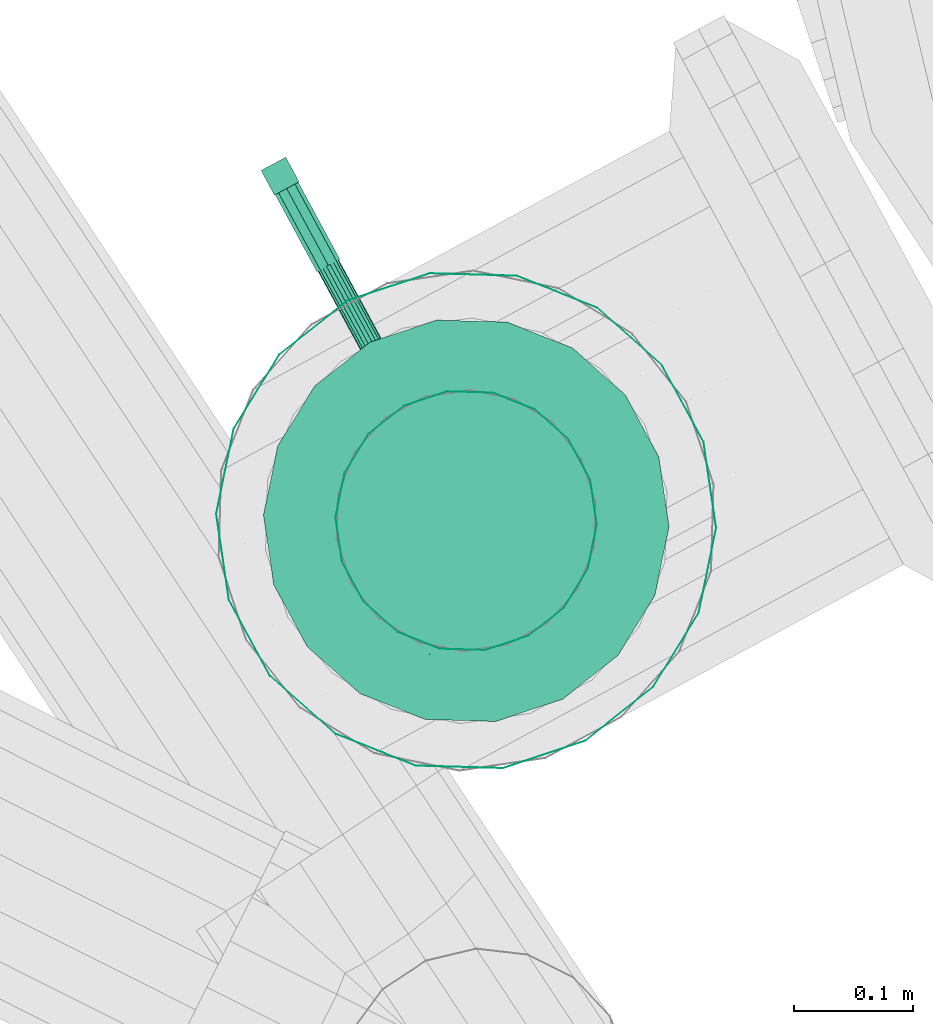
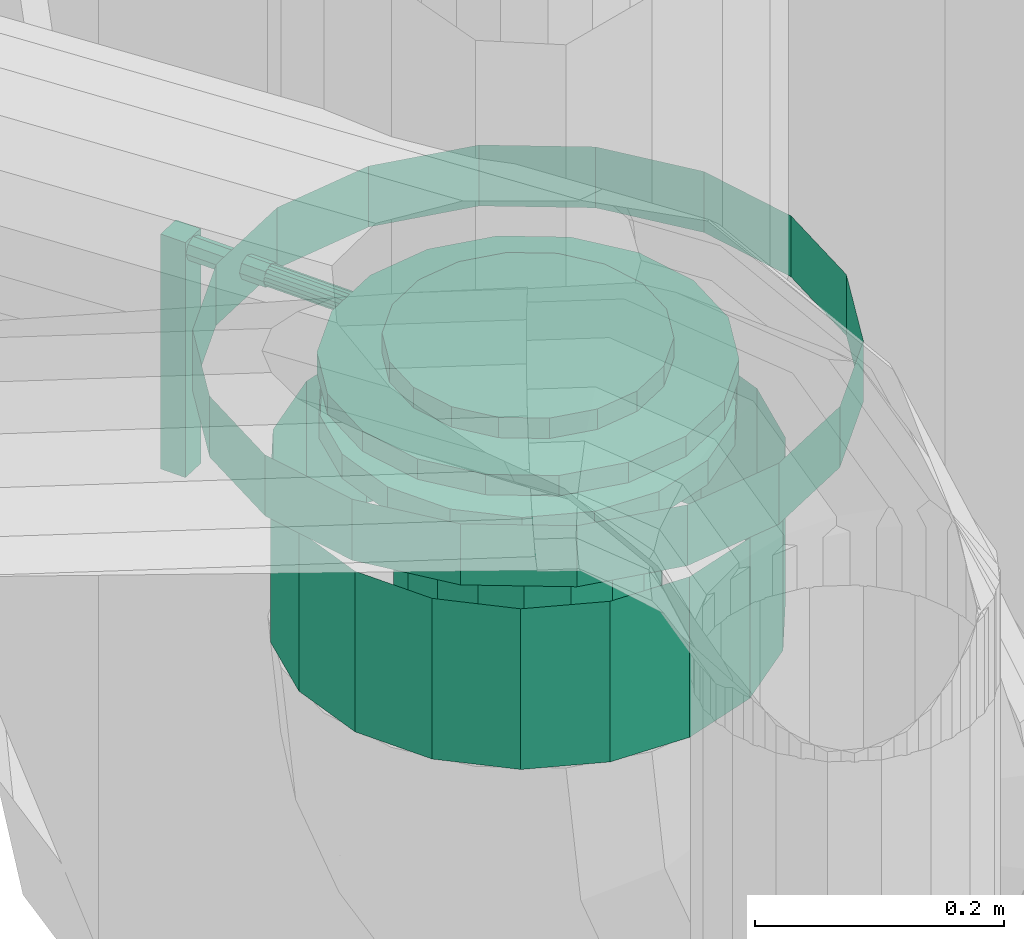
# One storey, part 98 of 206: 1 flow controller, 1 flow fitting, 1 flow segment.
"""IFC2X3 building model written with IfcOpenShell, lengths in metres."""

from ifc_helpers import new_model, si_unit, derived_unit, direction, frame, origin, place, context, subcontext, project, spatial, face_set, surface_model, source, transform, mapped, material, type_object, type_shapes, element, save


model = new_model("IFC2X3")

# Units and contexts
model_context = context("Model", 3, precision=5.2338327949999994e-05, world=origin(), true_north=direction((0.0, 1.0)))
body_context = subcontext(model_context, "Body", "Model", "MODEL_VIEW")
ifc_project = project(units=[si_unit("LENGTHUNIT", "METRE"), si_unit("AREAUNIT", "SQUARE_METRE"), si_unit("VOLUMEUNIT", "CUBIC_METRE"), si_unit("MASSUNIT", "GRAM", prefix="KILO"), si_unit("PLANEANGLEUNIT", "RADIAN"), derived_unit("THERMALTRANSMITTANCEUNIT", [(si_unit("MASSUNIT", "GRAM", prefix="KILO"), 1), (si_unit("THERMODYNAMICTEMPERATUREUNIT", "KELVIN"), -1), (si_unit("TIMEUNIT", "SECOND"), -3)])], contexts=[model_context])

# Site, building, storey
site_placement = place(None, frame((0.0, 0.0, 0.0), z_axis=(0.0, 0.0, 1.0), x_axis=(0.8939966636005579, -0.4480736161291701, 0.0)))
site = spatial("IfcSite", under=ifc_project, at=site_placement, Name="Default", CompositionType="ELEMENT")
building_placement = place(site_placement, origin())
building = spatial("IfcBuilding", under=site, at=building_placement, CompositionType="ELEMENT")
storey_placement = place(building_placement, origin())
storey = spatial("IfcBuildingStorey", under=building, at=storey_placement, Name="Erdgeschoss", CompositionType="ELEMENT", Elevation=0.0)

# Flow controller
ifc_material = material(Name="IfcSurfaceStyle #1741")
distribution_element_type_1 = type_object("IfcDistributionElementType", Name="Zwischenflanschklappe 350180:Zwischenflanschklappe 350180", material=ifc_material)
shared_shape_1 = source(origin(), body_context, "Body", "SurfaceModel", [
    surface_model("IfcFaceBasedSurfaceModel", [(33.674255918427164, 9.410925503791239, 1.745309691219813), (33.674255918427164, 9.410925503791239, 1.9761596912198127), (33.660776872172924, 9.39167543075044, 1.9761596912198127), (33.660776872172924, 9.39167543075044, 1.745309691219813), (33.64152679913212, 9.405154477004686, 1.9761596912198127), (33.64152679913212, 9.405154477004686, 1.745309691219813), (33.65500584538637, 9.424404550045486, 1.9761596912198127), (33.65500584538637, 9.424404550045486, 1.745309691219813), (33.85938278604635, 9.123513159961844, 1.9344096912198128), (33.89636677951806, 9.106267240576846, 1.9344096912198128), (33.89636677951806, 9.106267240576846, 1.9544096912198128), (33.85938278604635, 9.123513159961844, 1.9544096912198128), (33.937018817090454, 9.102710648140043, 1.9344096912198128), (33.937018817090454, 9.102710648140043, 1.9544096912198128), (33.97643566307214, 9.11327236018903, 1.9344096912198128), (33.97643566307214, 9.11327236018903, 1.9544096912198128), (34.009863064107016, 9.13667847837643, 1.9344096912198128), (34.009863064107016, 9.13667847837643, 1.9544096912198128), (34.03326918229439, 9.170105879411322, 1.9344096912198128), (34.03326918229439, 9.170105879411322, 1.9544096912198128), (34.043830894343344, 9.20952272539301, 1.9344096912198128), (34.043830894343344, 9.20952272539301, 1.9544096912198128), (34.04027430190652, 9.250174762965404, 1.9344096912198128), (34.04027430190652, 9.250174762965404, 1.9544096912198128), (34.0230283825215, 9.287158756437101, 1.9344096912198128), (34.0230283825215, 9.287158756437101, 1.9544096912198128), (33.99417324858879, 9.3160138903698, 1.9344096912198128), (33.99417324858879, 9.3160138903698, 1.9544096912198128), (33.95718925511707, 9.333259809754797, 1.9344096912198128), (33.95718925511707, 9.333259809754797, 1.9544096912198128), (33.91653721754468, 9.336816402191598, 1.9344096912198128), (33.91653721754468, 9.336816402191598, 1.9544096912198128), (33.877120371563, 9.326254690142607, 1.9344096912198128), (33.877120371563, 9.326254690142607, 1.9544096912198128), (33.843692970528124, 9.302848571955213, 1.9344096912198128), (33.843692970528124, 9.302848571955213, 1.9544096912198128), (33.82028685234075, 9.269421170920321, 1.9344096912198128), (33.82028685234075, 9.269421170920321, 1.9544096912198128), (33.80972514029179, 9.230004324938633, 1.9344096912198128), (33.80972514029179, 9.230004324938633, 1.9544096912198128), (33.81328173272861, 9.189352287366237, 1.9344096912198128), (33.81328173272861, 9.189352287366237, 1.9544096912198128), (33.83052765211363, 9.15236829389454, 1.9344096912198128), (33.83052765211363, 9.15236829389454, 1.9544096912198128), (33.92677801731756, 9.219763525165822, 1.9344096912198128), (33.92677801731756, 9.219763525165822, 1.9544096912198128), (33.82927002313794, 9.08050767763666, 1.9544096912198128), (33.882778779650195, 9.055556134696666, 1.9544096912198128), (33.882778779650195, 9.055556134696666, 1.9744096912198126), (33.82927002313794, 9.08050767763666, 1.9744096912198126), (33.94159449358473, 9.05041042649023, 1.9544096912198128), (33.94159449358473, 9.05041042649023, 1.9744096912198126), (33.99862312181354, 9.065691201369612, 1.9544096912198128), (33.99862312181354, 9.065691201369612, 1.9744096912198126), (34.04698617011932, 9.099555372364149, 1.9544096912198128), (34.04698617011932, 9.099555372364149, 1.9744096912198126), (34.08085034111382, 9.147918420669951, 1.9544096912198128), (34.08085034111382, 9.147918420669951, 1.9744096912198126), (34.09613111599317, 9.204947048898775, 1.9544096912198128), (34.09613111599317, 9.204947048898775, 1.9744096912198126), (34.0909854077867, 9.263762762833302, 1.9544096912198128), (34.0909854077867, 9.263762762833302, 1.9744096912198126), (34.066033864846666, 9.31727151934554, 1.9544096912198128), (34.066033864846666, 9.31727151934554, 1.9744096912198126), (34.0242860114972, 9.35901937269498, 1.9544096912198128), (34.0242860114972, 9.35901937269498, 1.9744096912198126), (33.97077725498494, 9.383970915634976, 1.9544096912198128), (33.97077725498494, 9.383970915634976, 1.9744096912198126), (33.91196154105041, 9.389116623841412, 1.9544096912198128), (33.91196154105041, 9.389116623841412, 1.9744096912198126), (33.854932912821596, 9.373835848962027, 1.9544096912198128), (33.854932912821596, 9.373835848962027, 1.9744096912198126), (33.806569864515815, 9.339971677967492, 1.9544096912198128), (33.806569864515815, 9.339971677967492, 1.9744096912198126), (33.77270569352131, 9.291608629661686, 1.9544096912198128), (33.77270569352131, 9.291608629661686, 1.9744096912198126), (33.757424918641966, 9.234580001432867, 1.9544096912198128), (33.757424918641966, 9.234580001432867, 1.9744096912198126), (33.762570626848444, 9.175764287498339, 1.9544096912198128), (33.762570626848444, 9.175764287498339, 1.9744096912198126), (33.787522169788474, 9.122255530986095, 1.9544096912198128), (33.787522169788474, 9.122255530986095, 1.9744096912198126), (33.92677801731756, 9.219763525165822, 1.9744096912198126), (33.85938278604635, 9.123513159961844, 1.9744096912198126), (33.89636677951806, 9.106267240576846, 1.9744096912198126), (33.89636677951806, 9.106267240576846, 1.9944096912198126), (33.85938278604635, 9.123513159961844, 1.9944096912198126), (33.937018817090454, 9.102710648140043, 1.9744096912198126), (33.937018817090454, 9.102710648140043, 1.9944096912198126), (33.97643566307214, 9.11327236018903, 1.9744096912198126), (33.97643566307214, 9.11327236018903, 1.9944096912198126), (34.009863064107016, 9.13667847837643, 1.9744096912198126), (34.009863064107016, 9.13667847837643, 1.9944096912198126), (34.03326918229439, 9.170105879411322, 1.9744096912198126), (34.03326918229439, 9.170105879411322, 1.9944096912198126), (34.043830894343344, 9.20952272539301, 1.9744096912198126), (34.043830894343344, 9.20952272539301, 1.9944096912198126), (34.04027430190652, 9.250174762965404, 1.9744096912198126), (34.04027430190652, 9.250174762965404, 1.9944096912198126), (34.0230283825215, 9.287158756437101, 1.9744096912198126), (34.0230283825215, 9.287158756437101, 1.9944096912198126), (33.99417324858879, 9.3160138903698, 1.9744096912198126), (33.99417324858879, 9.3160138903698, 1.9944096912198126), (33.95718925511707, 9.333259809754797, 1.9744096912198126), (33.95718925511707, 9.333259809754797, 1.9944096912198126), (33.91653721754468, 9.336816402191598, 1.9744096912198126), (33.91653721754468, 9.336816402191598, 1.9944096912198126), (33.877120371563, 9.326254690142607, 1.9744096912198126), (33.877120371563, 9.326254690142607, 1.9944096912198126), (33.843692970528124, 9.302848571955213, 1.9744096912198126), (33.843692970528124, 9.302848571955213, 1.9944096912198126), (33.82028685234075, 9.269421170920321, 1.9744096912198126), (33.82028685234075, 9.269421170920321, 1.9944096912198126), (33.80972514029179, 9.230004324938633, 1.9744096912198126), (33.80972514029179, 9.230004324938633, 1.9944096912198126), (33.81328173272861, 9.189352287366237, 1.9744096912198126), (33.81328173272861, 9.189352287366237, 1.9944096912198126), (33.83052765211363, 9.15236829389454, 1.9744096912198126), (33.83052765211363, 9.15236829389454, 1.9944096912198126), (33.92677801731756, 9.219763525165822, 1.9944096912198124), (33.92104225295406, 9.211572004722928, 1.964409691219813), (33.92138816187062, 9.212066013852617, 1.9678298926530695), (33.72212942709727, 9.351588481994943, 1.9678298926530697), (33.721783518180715, 9.351094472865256, 1.9644096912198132), (33.92238416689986, 9.213488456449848, 1.970837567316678), (33.723125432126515, 9.353010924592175, 1.970837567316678), (33.92391013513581, 9.215667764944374, 1.9730699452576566), (33.72465140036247, 9.355190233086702, 1.9730699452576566), (33.92578201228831, 9.218341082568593, 1.9742577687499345), (33.72652327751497, 9.357863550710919, 1.9742577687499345), (33.92777402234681, 9.22118596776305, 1.974257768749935), (33.72851528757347, 9.360708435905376, 1.974257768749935), (33.92964589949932, 9.223859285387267, 1.9730699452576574), (33.730387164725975, 9.363381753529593, 1.9730699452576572), (33.93117186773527, 9.226038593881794, 1.970837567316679), (33.73191313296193, 9.36556106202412, 1.970837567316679), (33.93216787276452, 9.227461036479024, 1.9678298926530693), (33.73290913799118, 9.36698350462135, 1.9678298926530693), (33.932513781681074, 9.22795504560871, 1.964409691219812), (33.73325504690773, 9.367477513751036, 1.9644096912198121), (33.93216787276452, 9.227461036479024, 1.960989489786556), (33.73290913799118, 9.366983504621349, 1.9609894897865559), (33.93117186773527, 9.226038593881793, 1.9579818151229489), (33.73191313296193, 9.365561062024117, 1.9579818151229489), (33.92964589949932, 9.223859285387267, 1.9557494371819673), (33.730387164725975, 9.363381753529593, 1.9557494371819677), (33.92777402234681, 9.22118596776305, 1.9545616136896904), (33.72851528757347, 9.360708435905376, 1.9545616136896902), (33.92578201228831, 9.218341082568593, 1.9545616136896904), (33.72652327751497, 9.357863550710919, 1.9545616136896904), (33.92391013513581, 9.215667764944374, 1.9557494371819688), (33.72465140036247, 9.355190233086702, 1.9557494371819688), (33.92238416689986, 9.213488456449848, 1.957981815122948), (33.723125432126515, 9.353010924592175, 1.9579818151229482), (33.92138816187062, 9.212066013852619, 1.9609894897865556), (33.72212942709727, 9.351588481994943, 1.9609894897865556), (33.92677801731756, 9.219763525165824, 1.964409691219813), (33.72751928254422, 9.359285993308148, 1.964409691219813), (33.721235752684, 9.35031218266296, 1.964409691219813), (33.72307615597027, 9.352940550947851, 1.9721560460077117), (33.66307326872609, 9.394955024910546, 1.9721560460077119), (33.66123286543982, 9.392326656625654, 1.9644096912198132), (33.72751928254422, 9.359285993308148, 1.975364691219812), (33.66751639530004, 9.401300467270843, 1.975364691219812), (33.73196240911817, 9.365631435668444, 1.9721560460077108), (33.671959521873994, 9.407645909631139, 1.9721560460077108), (33.73380281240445, 9.368259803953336, 1.9644096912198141), (33.67379992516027, 9.41027427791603, 1.9644096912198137), (33.73196240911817, 9.365631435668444, 1.9566633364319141), (33.671959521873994, 9.407645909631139, 1.9566633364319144), (33.72751928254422, 9.359285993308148, 1.9534546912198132), (33.66751639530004, 9.401300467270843, 1.9534546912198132), (33.72307615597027, 9.352940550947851, 1.9566633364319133), (33.66307326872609, 9.394955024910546, 1.9566633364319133), (33.66751639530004, 9.401300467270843, 1.964409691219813), (33.77191237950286, 8.998592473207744, 1.9344096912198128), (33.85689687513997, 8.958963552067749, 1.9344096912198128), (33.85689687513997, 8.958963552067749, 1.9944096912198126), (33.77191237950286, 8.998592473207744, 1.9944096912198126), (33.95031006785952, 8.950790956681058, 1.9344096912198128), (33.95031006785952, 8.950790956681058, 1.9944096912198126), (34.040884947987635, 8.975060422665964, 1.9344096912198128), (34.040884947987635, 8.975060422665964, 1.9944096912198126), (34.117696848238, 9.028844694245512, 1.9344096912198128), (34.117696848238, 9.028844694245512, 1.9944096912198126), (34.17148111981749, 9.105656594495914, 1.9344096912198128), (34.17148111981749, 9.105656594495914, 1.9944096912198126), (34.19575058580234, 9.196231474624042, 1.9344096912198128), (34.19575058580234, 9.196231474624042, 1.9944096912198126), (34.18757799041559, 9.289644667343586, 1.9344096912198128), (34.18757799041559, 9.289644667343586, 1.9944096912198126), (34.14794906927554, 9.374629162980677, 1.9344096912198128), (34.14794906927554, 9.374629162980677, 1.9944096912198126), (34.081643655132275, 9.4409345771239, 1.9344096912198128), (34.081643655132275, 9.4409345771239, 1.9944096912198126), (33.99665915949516, 9.480563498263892, 1.9344096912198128), (33.99665915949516, 9.480563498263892, 1.9944096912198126), (33.903245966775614, 9.488736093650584, 1.9344096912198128), (33.903245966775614, 9.488736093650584, 1.9944096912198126), (33.8126710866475, 9.464466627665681, 1.9344096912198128), (33.8126710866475, 9.464466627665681, 1.9944096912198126), (33.735859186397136, 9.410682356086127, 1.9344096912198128), (33.735859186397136, 9.410682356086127, 1.9944096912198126), (33.682074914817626, 9.33387045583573, 1.9344096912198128), (33.682074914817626, 9.33387045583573, 1.9944096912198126), (33.65780544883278, 9.243295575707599, 1.9344096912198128), (33.65780544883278, 9.243295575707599, 1.9944096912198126), (33.66597804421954, 9.149882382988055, 1.9344096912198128), (33.66597804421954, 9.149882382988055, 1.9944096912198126), (33.705606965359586, 9.064897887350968, 1.9344096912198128), (33.705606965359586, 9.064897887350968, 1.9944096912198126)], [face_set([[[0, 1, 2, 3]], [[3, 2, 4, 5]], [[5, 4, 6, 7]], [[7, 6, 1, 0]], [[0, 3, 5, 7]], [[6, 4, 2, 1]], [[8, 9, 10, 11]], [[9, 12, 13, 10]], [[12, 14, 15, 13]], [[14, 16, 17, 15]], [[16, 18, 19, 17]], [[18, 20, 21, 19]], [[20, 22, 23, 21]], [[22, 24, 25, 23]], [[24, 26, 27, 25]], [[26, 28, 29, 27]], [[28, 30, 31, 29]], [[30, 32, 33, 31]], [[32, 34, 35, 33]], [[34, 36, 37, 35]], [[36, 38, 39, 37]], [[38, 40, 41, 39]], [[40, 42, 43, 41]], [[42, 8, 11, 43]], [[44, 9, 8]], [[44, 12, 9]], [[44, 14, 12]], [[44, 16, 14]], [[44, 18, 16]], [[44, 20, 18]], [[44, 22, 20]], [[44, 24, 22]], [[44, 26, 24]], [[44, 28, 26]], [[44, 30, 28]], [[44, 32, 30]], [[44, 34, 32]], [[44, 36, 34]], [[44, 38, 36]], [[44, 40, 38]], [[44, 42, 40]], [[44, 8, 42]], [[45, 43, 11]], [[45, 41, 43]], [[45, 39, 41]], [[45, 37, 39]], [[45, 35, 37]], [[45, 33, 35]], [[45, 31, 33]], [[45, 29, 31]], [[45, 27, 29]], [[45, 25, 27]], [[45, 23, 25]], [[45, 21, 23]], [[45, 19, 21]], [[45, 17, 19]], [[45, 15, 17]], [[45, 13, 15]], [[45, 10, 13]], [[45, 11, 10]], [[46, 47, 48, 49]], [[47, 50, 51, 48]], [[50, 52, 53, 51]], [[52, 54, 55, 53]], [[54, 56, 57, 55]], [[56, 58, 59, 57]], [[58, 60, 61, 59]], [[60, 62, 63, 61]], [[62, 64, 65, 63]], [[64, 66, 67, 65]], [[66, 68, 69, 67]], [[68, 70, 71, 69]], [[70, 72, 73, 71]], [[72, 74, 75, 73]], [[74, 76, 77, 75]], [[76, 78, 79, 77]], [[78, 80, 81, 79]], [[80, 46, 49, 81]], [[45, 47, 46]], [[45, 50, 47]], [[45, 52, 50]], [[45, 54, 52]], [[45, 56, 54]], [[45, 58, 56]], [[45, 60, 58]], [[45, 62, 60]], [[45, 64, 62]], [[45, 66, 64]], [[45, 68, 66]], [[45, 70, 68]], [[45, 72, 70]], [[45, 74, 72]], [[45, 76, 74]], [[45, 78, 76]], [[45, 80, 78]], [[45, 46, 80]], [[82, 81, 49]], [[82, 79, 81]], [[82, 77, 79]], [[82, 75, 77]], [[82, 73, 75]], [[82, 71, 73]], [[82, 69, 71]], [[82, 67, 69]], [[82, 65, 67]], [[82, 63, 65]], [[82, 61, 63]], [[82, 59, 61]], [[82, 57, 59]], [[82, 55, 57]], [[82, 53, 55]], [[82, 51, 53]], [[82, 48, 51]], [[82, 49, 48]], [[83, 84, 85, 86]], [[84, 87, 88, 85]], [[87, 89, 90, 88]], [[89, 91, 92, 90]], [[91, 93, 94, 92]], [[93, 95, 96, 94]], [[95, 97, 98, 96]], [[97, 99, 100, 98]], [[99, 101, 102, 100]], [[101, 103, 104, 102]], [[103, 105, 106, 104]], [[105, 107, 108, 106]], [[107, 109, 110, 108]], [[109, 111, 112, 110]], [[111, 113, 114, 112]], [[113, 115, 116, 114]], [[115, 117, 118, 116]], [[117, 83, 86, 118]], [[82, 84, 83]], [[82, 87, 84]], [[82, 89, 87]], [[82, 91, 89]], [[82, 93, 91]], [[82, 95, 93]], [[82, 97, 95]], [[82, 99, 97]], [[82, 101, 99]], [[82, 103, 101]], [[82, 105, 103]], [[82, 107, 105]], [[82, 109, 107]], [[82, 111, 109]], [[82, 113, 111]], [[82, 115, 113]], [[82, 117, 115]], [[82, 83, 117]], [[119, 118, 86]], [[119, 116, 118]], [[119, 114, 116]], [[119, 112, 114]], [[119, 110, 112]], [[119, 108, 110]], [[119, 106, 108]], [[119, 104, 106]], [[119, 102, 104]], [[119, 100, 102]], [[119, 98, 100]], [[119, 96, 98]], [[119, 94, 96]], [[119, 92, 94]], [[119, 90, 92]], [[119, 88, 90]], [[119, 85, 88]], [[119, 86, 85]], [[120, 121, 122, 123]], [[121, 124, 125, 122]], [[124, 126, 127, 125]], [[126, 128, 129, 127]], [[128, 130, 131, 129]], [[130, 132, 133, 131]], [[132, 134, 135, 133]], [[134, 136, 137, 135]], [[136, 138, 139, 137]], [[138, 140, 141, 139]], [[140, 142, 143, 141]], [[142, 144, 145, 143]], [[144, 146, 147, 145]], [[146, 148, 149, 147]], [[148, 150, 151, 149]], [[150, 152, 153, 151]], [[152, 154, 155, 153]], [[154, 120, 123, 155]], [[156, 121, 120]], [[156, 124, 121]], [[156, 126, 124]], [[156, 128, 126]], [[156, 130, 128]], [[156, 132, 130]], [[156, 134, 132]], [[156, 136, 134]], [[156, 138, 136]], [[156, 140, 138]], [[156, 142, 140]], [[156, 144, 142]], [[156, 146, 144]], [[156, 148, 146]], [[156, 150, 148]], [[156, 152, 150]], [[156, 154, 152]], [[156, 120, 154]], [[157, 155, 123]], [[157, 153, 155]], [[157, 151, 153]], [[157, 149, 151]], [[157, 147, 149]], [[157, 145, 147]], [[157, 143, 145]], [[157, 141, 143]], [[157, 139, 141]], [[157, 137, 139]], [[157, 135, 137]], [[157, 133, 135]], [[157, 131, 133]], [[157, 129, 131]], [[157, 127, 129]], [[157, 125, 127]], [[157, 122, 125]], [[157, 123, 122]], [[158, 159, 160, 161]], [[159, 162, 163, 160]], [[162, 164, 165, 163]], [[164, 166, 167, 165]], [[166, 168, 169, 167]], [[168, 170, 171, 169]], [[170, 172, 173, 171]], [[172, 158, 161, 173]], [[174, 173, 161]], [[174, 171, 173]], [[174, 169, 171]], [[174, 167, 169]], [[174, 165, 167]], [[174, 163, 165]], [[174, 160, 163]], [[174, 161, 160]], [[175, 176, 177, 178]], [[176, 179, 180, 177]], [[179, 181, 182, 180]], [[181, 183, 184, 182]], [[183, 185, 186, 184]], [[185, 187, 188, 186]], [[187, 189, 190, 188]], [[189, 191, 192, 190]], [[191, 193, 194, 192]], [[193, 195, 196, 194]], [[195, 197, 198, 196]], [[197, 199, 200, 198]], [[199, 201, 202, 200]], [[201, 203, 204, 202]], [[203, 205, 206, 204]], [[205, 207, 208, 206]], [[207, 209, 210, 208]], [[209, 175, 178, 210]]])]),
])
type_shapes(distribution_element_type_1, [shared_shape_1])
flow_controller_placement = place(storey_placement, origin())
element("IfcFlowController", 1, at=flow_controller_placement, inside=storey, type_object=distribution_element_type_1, material=ifc_material, Name="Zwischenflanschklappe", ObjectType="Zwischenflanschklappe", context=body_context, shape_type="MappedRepresentation", body=[
    mapped(shared_shape_1, transform((0.0, 0.0, 0.0), scale=1.0)),
])

# Flow segment
distribution_element_type_2 = type_object("IfcDistributionElementType", Name="Stahlrohr nach DIN 2448 350207:Stahlrohr nach DIN 2448 350207", material=ifc_material)
shared_shape_2 = source(origin(), body_context, "Body", "SurfaceModel", [
    surface_model("IfcFaceBasedSurfaceModel", [(33.837039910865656, 9.282598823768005, 1.7145499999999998), (33.82096084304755, 9.248117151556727, 1.7145499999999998), (33.82096084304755, 9.248117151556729, 1.8724096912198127), (33.837039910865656, 9.282598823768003, 1.8724096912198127), (33.817644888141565, 9.21021561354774, 1.7145499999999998), (33.817644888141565, 9.210215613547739, 1.8724096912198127), (33.82749199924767, 9.173465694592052, 1.7145499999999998), (33.827491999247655, 9.173465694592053, 1.8724096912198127), (33.84931446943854, 9.142299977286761, 1.7145499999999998), (33.84931446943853, 9.14229997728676, 1.8724096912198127), (33.88048018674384, 9.12047750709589, 1.7145499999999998), (33.880480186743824, 9.120477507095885, 1.8724096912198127), (33.91723010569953, 9.110630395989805, 1.7145499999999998), (33.917230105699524, 9.1106303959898, 1.8724096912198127), (33.95513164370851, 9.113946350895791, 1.7145499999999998), (33.955131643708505, 9.113946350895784, 1.8724096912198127), (33.98961331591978, 9.130025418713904, 1.7145499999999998), (33.989613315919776, 9.130025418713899, 1.8724096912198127), (34.016516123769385, 9.15692822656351, 1.7145499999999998), (34.01651612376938, 9.156928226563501, 1.8724096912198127), (34.03259519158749, 9.191409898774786, 1.7145499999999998), (34.03259519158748, 9.191409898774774, 1.8724096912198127), (34.03591114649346, 9.229311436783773, 1.7145499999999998), (34.035911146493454, 9.229311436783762, 1.8724096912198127), (34.02606403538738, 9.26606135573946, 1.7145499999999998), (34.02606403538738, 9.26606135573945, 1.8724096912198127), (34.004241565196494, 9.297227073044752, 1.7145499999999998), (34.0042415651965, 9.297227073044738, 1.8724096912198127), (33.9730758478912, 9.319049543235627, 1.7145499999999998), (33.97307584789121, 9.319049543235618, 1.8724096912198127), (33.93632592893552, 9.328896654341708, 1.7145499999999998), (33.93632592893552, 9.328896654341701, 1.8724096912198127), (33.89842439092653, 9.32558069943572, 1.7145499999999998), (33.898424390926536, 9.325580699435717, 1.8724096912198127), (33.86394271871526, 9.309501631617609, 1.7145499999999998), (33.863942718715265, 9.309501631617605, 1.8724096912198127), (33.75512470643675, 9.339956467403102, 1.7145499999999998), (33.72436826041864, 9.273999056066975, 1.7145499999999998), (33.72436826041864, 9.273999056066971, 1.8724096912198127), (33.75512470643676, 9.339956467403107, 1.8724096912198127), (33.718025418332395, 9.201500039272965, 1.7145499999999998), (33.718025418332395, 9.20150003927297, 1.8724096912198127), (33.736861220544, 9.131203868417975, 1.7145499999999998), (33.73686122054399, 9.131203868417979, 1.8724096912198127), (33.778603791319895, 9.0715892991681, 1.7145499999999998), (33.77860379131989, 9.071589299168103, 1.8724096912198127), (33.838218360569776, 9.02984672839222, 1.7145499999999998), (33.83821836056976, 9.029846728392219, 1.8724096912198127), (33.90851453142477, 9.011010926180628, 1.7145499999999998), (33.90851453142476, 9.011010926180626, 1.8724096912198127), (33.98101354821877, 9.017353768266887, 1.7145499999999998), (33.981013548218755, 9.01735376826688, 1.8724096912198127), (34.046970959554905, 9.048110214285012, 1.7145499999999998), (34.04697095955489, 9.048110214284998, 1.8724096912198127), (34.09843132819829, 9.09957058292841, 1.7145499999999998), (34.09843132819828, 9.099570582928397, 1.8724096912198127), (34.129187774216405, 9.165527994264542, 1.7145499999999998), (34.1291877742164, 9.165527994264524, 1.8724096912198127), (34.13553061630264, 9.238027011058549, 1.7145499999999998), (34.13553061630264, 9.238027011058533, 1.8724096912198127), (34.11669481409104, 9.308323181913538, 1.7145499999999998), (34.11669481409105, 9.308323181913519, 1.8724096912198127), (34.074952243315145, 9.36793775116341, 1.7145499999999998), (34.07495224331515, 9.3679377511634, 1.8724096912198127), (34.015337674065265, 9.409680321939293, 1.7145499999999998), (34.01533767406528, 9.409680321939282, 1.8724096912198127), (33.94504150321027, 9.428516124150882, 1.7145499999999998), (33.945041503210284, 9.428516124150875, 1.8724096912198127), (33.87254248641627, 9.422173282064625, 1.7145499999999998), (33.87254248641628, 9.42217328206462, 1.8724096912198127), (33.80658507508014, 9.391416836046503, 1.7145499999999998), (33.80658507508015, 9.391416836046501, 1.8724096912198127)], [face_set([[[0, 1, 2, 3]], [[1, 4, 5, 2]], [[4, 6, 7, 5]], [[6, 8, 9, 7]], [[8, 10, 11, 9]], [[10, 12, 13, 11]], [[12, 14, 15, 13]], [[14, 16, 17, 15]], [[16, 18, 19, 17]], [[18, 20, 21, 19]], [[20, 22, 23, 21]], [[22, 24, 25, 23]], [[24, 26, 27, 25]], [[26, 28, 29, 27]], [[28, 30, 31, 29]], [[30, 32, 33, 31]], [[32, 34, 35, 33]], [[34, 0, 3, 35]], [[36, 37, 38, 39]], [[37, 40, 41, 38]], [[40, 42, 43, 41]], [[42, 44, 45, 43]], [[44, 46, 47, 45]], [[46, 48, 49, 47]], [[48, 50, 51, 49]], [[50, 52, 53, 51]], [[52, 54, 55, 53]], [[54, 56, 57, 55]], [[56, 58, 59, 57]], [[58, 60, 61, 59]], [[60, 62, 63, 61]], [[62, 64, 65, 63]], [[64, 66, 67, 65]], [[66, 68, 69, 67]], [[68, 70, 71, 69]], [[70, 36, 39, 71]]])]),
])
type_shapes(distribution_element_type_2, [shared_shape_2])
flow_segment_placement = place(storey_placement, origin())
element("IfcFlowSegment", 2, at=flow_segment_placement, inside=storey, type_object=distribution_element_type_2, material=ifc_material, Name="Stahlrohr nach DIN 2448", ObjectType="Stahlrohr nach DIN 2448", context=body_context, shape_type="MappedRepresentation", body=[
    mapped(shared_shape_2, transform((0.0, 0.0, 0.0), scale=1.0)),
])

# Flow fitting
distribution_element_type_3 = type_object("IfcDistributionElementType", Name="Flansch 350492:Flansch 350492", material=ifc_material)
shared_shape_3 = source(origin(), body_context, "Body", "SurfaceModel", [
    surface_model("IfcFaceBasedSurfaceModel", [(33.86394271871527, 9.130025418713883, 1.872409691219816), (33.89842439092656, 9.113946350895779, 1.872409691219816), (33.89636677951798, 9.10626724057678, 1.9104096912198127), (33.859382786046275, 9.123513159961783, 1.9104096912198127), (33.93632592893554, 9.110630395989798, 1.8724096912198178), (33.937018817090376, 9.102710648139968, 1.910409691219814), (33.973075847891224, 9.120477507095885, 1.8724096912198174), (33.97643566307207, 9.113272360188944, 1.9104096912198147), (34.00424156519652, 9.142299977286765, 1.8724096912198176), (34.00986306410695, 9.13667847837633, 1.9104096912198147), (34.0260640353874, 9.173465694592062, 1.8724096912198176), (34.03326918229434, 9.17010587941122, 1.9104096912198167), (34.035911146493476, 9.210215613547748, 1.87240969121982), (34.043830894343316, 9.209522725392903, 1.9104096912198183), (34.0325951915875, 9.248117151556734, 1.8724096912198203), (34.040274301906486, 9.2501747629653, 1.9104096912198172), (34.01651612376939, 9.28259882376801, 1.872409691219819), (34.02302838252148, 9.287158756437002, 1.9104096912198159), (33.98961331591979, 9.309501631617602, 1.8724096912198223), (33.994173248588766, 9.316013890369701, 1.91040969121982), (33.95513164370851, 9.32558069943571, 1.87240969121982), (33.95718925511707, 9.333259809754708, 1.9104096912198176), (33.917230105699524, 9.32889665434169, 1.87240969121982), (33.916537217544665, 9.33681640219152, 1.9104096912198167), (33.880480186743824, 9.319049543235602, 1.8724096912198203), (33.87712037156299, 9.326254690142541, 1.9104096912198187), (33.84931446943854, 9.297227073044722, 1.8724096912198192), (33.8436929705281, 9.302848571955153, 1.9104096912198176), (33.827491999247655, 9.266061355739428, 1.8724096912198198), (33.820286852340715, 9.269421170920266, 1.9104096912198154), (33.81764488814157, 9.22931143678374, 1.8724096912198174), (33.80972514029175, 9.230004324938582, 1.910409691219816), (33.82096084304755, 9.191409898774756, 1.8724096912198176), (33.81328173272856, 9.18935228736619, 1.9104096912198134), (33.83703991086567, 9.156928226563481, 1.8724096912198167), (33.830527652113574, 9.152368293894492, 1.9104096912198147), (34.066033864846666, 9.12225553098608, 1.910409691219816), (34.090985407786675, 9.17576428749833, 1.910409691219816), (34.090985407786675, 9.17576428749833, 1.934409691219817), (34.066033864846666, 9.12225553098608, 1.9344096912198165), (34.09613111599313, 9.234580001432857, 1.9104096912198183), (34.09613111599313, 9.23458000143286, 1.9344096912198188), (34.080850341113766, 9.291608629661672, 1.9104096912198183), (34.08085034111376, 9.291608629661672, 1.9344096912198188), (34.04698617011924, 9.33997167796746, 1.910409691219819), (34.04698617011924, 9.33997167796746, 1.9344096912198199), (33.99862312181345, 9.373835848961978, 1.9104096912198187), (33.998623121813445, 9.373835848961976, 1.9344096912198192), (33.941594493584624, 9.389116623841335, 1.9104096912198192), (33.94159449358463, 9.389116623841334, 1.9344096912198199), (33.882778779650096, 9.383970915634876, 1.9104096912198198), (33.88277877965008, 9.383970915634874, 1.9344096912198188), (33.829270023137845, 9.359019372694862, 1.9104096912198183), (33.829270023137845, 9.359019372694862, 1.9344096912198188), (33.787522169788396, 9.317271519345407, 1.9104096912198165), (33.787522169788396, 9.317271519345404, 1.934409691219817), (33.76257062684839, 9.263762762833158, 1.910409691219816), (33.76257062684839, 9.263762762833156, 1.9344096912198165), (33.757424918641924, 9.204947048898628, 1.9104096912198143), (33.757424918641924, 9.204947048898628, 1.9344096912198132), (33.772705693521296, 9.147918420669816, 1.9104096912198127), (33.772705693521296, 9.147918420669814, 1.9344096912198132), (33.806569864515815, 9.099555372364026, 1.9104096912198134), (33.806569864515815, 9.099555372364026, 1.934409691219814), (33.85493291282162, 9.06569120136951, 1.9104096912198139), (33.85493291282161, 9.06569120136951, 1.9344096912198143), (33.91196154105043, 9.050410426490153, 1.9104096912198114), (33.91196154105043, 9.050410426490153, 1.9344096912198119), (33.97077725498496, 9.05555613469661, 1.9104096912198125), (33.97077725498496, 9.05555613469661, 1.9344096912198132), (34.02428601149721, 9.080507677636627, 1.9104096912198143), (34.02428601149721, 9.080507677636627, 1.934409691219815), (33.92677801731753, 9.219763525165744, 1.9104096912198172)], [face_set([[[0, 1, 2, 3]], [[1, 4, 5, 2]], [[4, 6, 7, 5]], [[6, 8, 9, 7]], [[8, 10, 11, 9]], [[10, 12, 13, 11]], [[12, 14, 15, 13]], [[14, 16, 17, 15]], [[16, 18, 19, 17]], [[18, 20, 21, 19]], [[20, 22, 23, 21]], [[22, 24, 25, 23]], [[24, 26, 27, 25]], [[26, 28, 29, 27]], [[28, 30, 31, 29]], [[30, 32, 33, 31]], [[32, 34, 35, 33]], [[34, 0, 3, 35]], [[36, 37, 38, 39]], [[37, 40, 41, 38]], [[40, 42, 43, 41]], [[42, 44, 45, 43]], [[44, 46, 47, 45]], [[46, 48, 49, 47]], [[48, 50, 51, 49]], [[50, 52, 53, 51]], [[52, 54, 55, 53]], [[54, 56, 57, 55]], [[56, 58, 59, 57]], [[58, 60, 61, 59]], [[60, 62, 63, 61]], [[62, 64, 65, 63]], [[64, 66, 67, 65]], [[66, 68, 69, 67]], [[68, 70, 71, 69]], [[70, 36, 39, 71]], [[72, 37, 36]], [[72, 40, 37]], [[72, 42, 40]], [[72, 44, 42]], [[72, 46, 44]], [[72, 48, 46]], [[72, 50, 48]], [[72, 52, 50]], [[72, 54, 52]], [[72, 56, 54]], [[72, 58, 56]], [[72, 60, 58]], [[72, 62, 60]], [[72, 64, 62]], [[72, 66, 64]], [[72, 68, 66]], [[72, 70, 68]], [[72, 36, 70]]])]),
])
type_shapes(distribution_element_type_3, [shared_shape_3])
flow_fitting_placement = place(storey_placement, origin())
element("IfcFlowFitting", 3, at=flow_fitting_placement, inside=storey, type_object=distribution_element_type_3, material=ifc_material, Name="Flansch", ObjectType="Flansch", context=body_context, shape_type="MappedRepresentation", body=[
    mapped(shared_shape_3, transform((0.0, 0.0, 0.0), scale=1.0)),
])

save(model, "model.ifc")
